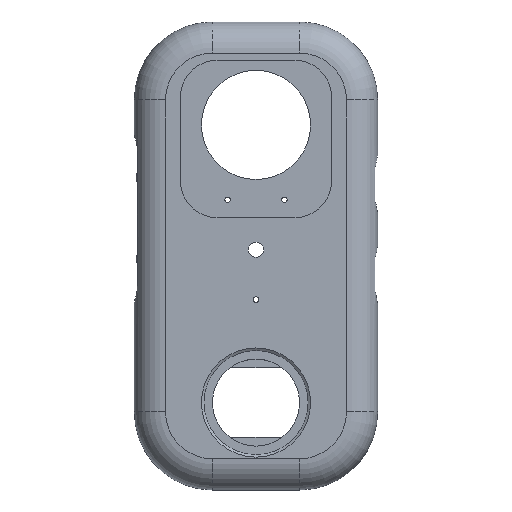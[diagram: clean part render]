
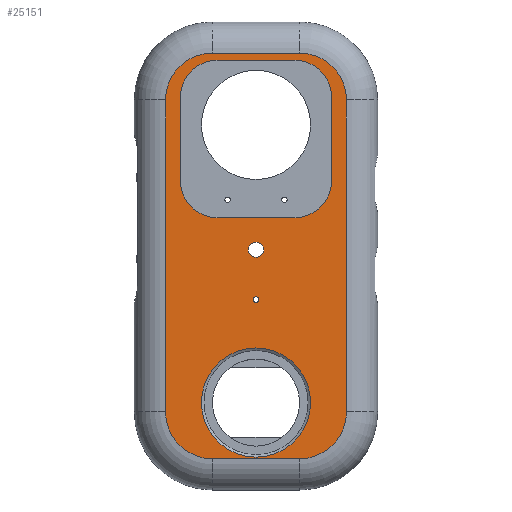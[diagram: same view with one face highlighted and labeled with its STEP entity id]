
A CAD part, top view. The second image highlights one B-rep face of the part: STEP entity #25151.
In plain terms, the highlighted planar face has unit normal (0, 0, 1).
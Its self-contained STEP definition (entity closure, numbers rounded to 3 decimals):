
#733=PLANE('',#27304);
#1183=FACE_BOUND('',#3684,.T.);
#1184=FACE_BOUND('',#3685,.T.);
#1185=FACE_BOUND('',#3686,.T.);
#1186=FACE_BOUND('',#3687,.T.);
#2273=FACE_OUTER_BOUND('',#3683,.T.);
#3683=EDGE_LOOP('',(#21497,#21498,#21499,#21500,#21501,#21502,#21503,#21504));
#3684=EDGE_LOOP('',(#21505));
#3685=EDGE_LOOP('',(#21506,#21507,#21508,#21509,#21510,#21511,#21512,#21513));
#3686=EDGE_LOOP('',(#21514));
#3687=EDGE_LOOP('',(#21515));
#4712=CIRCLE('',#26588,11.7);
#4713=CIRCLE('',#26591,11.7);
#4714=CIRCLE('',#26594,11.7);
#4715=CIRCLE('',#26597,11.7);
#4957=CIRCLE('',#27305,15.);
#4958=CIRCLE('',#27306,15.);
#4959=CIRCLE('',#27307,15.);
#4960=CIRCLE('',#27308,15.);
#4961=CIRCLE('',#27309,2.45);
#4962=CIRCLE('',#27310,17.5);
#4963=CIRCLE('',#27311,0.9);
#6089=LINE('',#47211,#8553);
#6093=LINE('',#47220,#8557);
#6096=LINE('',#47228,#8560);
#6099=LINE('',#47236,#8563);
#7011=LINE('',#51050,#9475);
#7012=LINE('',#51054,#9476);
#7013=LINE('',#51058,#9477);
#7014=LINE('',#51062,#9478);
#8553=VECTOR('',#30790,1.);
#8557=VECTOR('',#30800,1.);
#8560=VECTOR('',#30809,1.);
#8563=VECTOR('',#30818,1.);
#9475=VECTOR('',#33148,1.);
#9476=VECTOR('',#33151,1.);
#9477=VECTOR('',#33154,1.);
#9478=VECTOR('',#33157,1.);
#11377=VERTEX_POINT('',#47209);
#11378=VERTEX_POINT('',#47210);
#11379=VERTEX_POINT('',#47215);
#11380=VERTEX_POINT('',#47219);
#11381=VERTEX_POINT('',#47223);
#11382=VERTEX_POINT('',#47227);
#11383=VERTEX_POINT('',#47231);
#11384=VERTEX_POINT('',#47235);
#12161=VERTEX_POINT('',#51048);
#12162=VERTEX_POINT('',#51049);
#12163=VERTEX_POINT('',#51051);
#12164=VERTEX_POINT('',#51053);
#12165=VERTEX_POINT('',#51055);
#12166=VERTEX_POINT('',#51057);
#12167=VERTEX_POINT('',#51059);
#12168=VERTEX_POINT('',#51061);
#12169=VERTEX_POINT('',#51064);
#12170=VERTEX_POINT('',#51066);
#12171=VERTEX_POINT('',#51068);
#14271=EDGE_CURVE('',#11377,#11378,#6089,.T.);
#14274=EDGE_CURVE('',#11379,#11377,#4712,.T.);
#14276=EDGE_CURVE('',#11380,#11379,#6093,.T.);
#14278=EDGE_CURVE('',#11381,#11380,#4713,.T.);
#14280=EDGE_CURVE('',#11382,#11381,#6096,.T.);
#14282=EDGE_CURVE('',#11383,#11382,#4714,.T.);
#14284=EDGE_CURVE('',#11384,#11383,#6099,.T.);
#14286=EDGE_CURVE('',#11378,#11384,#4715,.T.);
#15515=EDGE_CURVE('',#12161,#12162,#7011,.T.);
#15516=EDGE_CURVE('',#12163,#12161,#4957,.T.);
#15517=EDGE_CURVE('',#12164,#12163,#7012,.T.);
#15518=EDGE_CURVE('',#12165,#12164,#4958,.T.);
#15519=EDGE_CURVE('',#12166,#12165,#7013,.T.);
#15520=EDGE_CURVE('',#12167,#12166,#4959,.T.);
#15521=EDGE_CURVE('',#12168,#12167,#7014,.T.);
#15522=EDGE_CURVE('',#12162,#12168,#4960,.T.);
#15523=EDGE_CURVE('',#12169,#12169,#4961,.T.);
#15524=EDGE_CURVE('',#12170,#12170,#4962,.T.);
#15525=EDGE_CURVE('',#12171,#12171,#4963,.T.);
#21497=ORIENTED_EDGE('',*,*,#15515,.F.);
#21498=ORIENTED_EDGE('',*,*,#15516,.F.);
#21499=ORIENTED_EDGE('',*,*,#15517,.F.);
#21500=ORIENTED_EDGE('',*,*,#15518,.F.);
#21501=ORIENTED_EDGE('',*,*,#15519,.F.);
#21502=ORIENTED_EDGE('',*,*,#15520,.F.);
#21503=ORIENTED_EDGE('',*,*,#15521,.F.);
#21504=ORIENTED_EDGE('',*,*,#15522,.F.);
#21505=ORIENTED_EDGE('',*,*,#15523,.T.);
#21506=ORIENTED_EDGE('',*,*,#14276,.T.);
#21507=ORIENTED_EDGE('',*,*,#14274,.T.);
#21508=ORIENTED_EDGE('',*,*,#14271,.T.);
#21509=ORIENTED_EDGE('',*,*,#14286,.T.);
#21510=ORIENTED_EDGE('',*,*,#14284,.T.);
#21511=ORIENTED_EDGE('',*,*,#14282,.T.);
#21512=ORIENTED_EDGE('',*,*,#14280,.T.);
#21513=ORIENTED_EDGE('',*,*,#14278,.T.);
#21514=ORIENTED_EDGE('',*,*,#15524,.T.);
#21515=ORIENTED_EDGE('',*,*,#15525,.T.);
#25151=ADVANCED_FACE('',(#2273,#1183,#1184,#1185,#1186),#733,.T.);
#26588=AXIS2_PLACEMENT_3D('',#47216,#30795,#30796);
#26591=AXIS2_PLACEMENT_3D('',#47224,#30804,#30805);
#26594=AXIS2_PLACEMENT_3D('',#47232,#30813,#30814);
#26597=AXIS2_PLACEMENT_3D('',#47239,#30822,#30823);
#27304=AXIS2_PLACEMENT_3D('',#51047,#33146,#33147);
#27305=AXIS2_PLACEMENT_3D('',#51052,#33149,#33150);
#27306=AXIS2_PLACEMENT_3D('',#51056,#33152,#33153);
#27307=AXIS2_PLACEMENT_3D('',#51060,#33155,#33156);
#27308=AXIS2_PLACEMENT_3D('',#51063,#33158,#33159);
#27309=AXIS2_PLACEMENT_3D('',#51065,#33160,#33161);
#27310=AXIS2_PLACEMENT_3D('',#51067,#33162,#33163);
#27311=AXIS2_PLACEMENT_3D('',#51069,#33164,#33165);
#30790=DIRECTION('',(0.,-1.,0.));
#30795=DIRECTION('center_axis',(0.,0.,-1.));
#30796=DIRECTION('ref_axis',(1.,0.,0.));
#30800=DIRECTION('',(1.,0.,0.));
#30804=DIRECTION('center_axis',(0.,0.,-1.));
#30805=DIRECTION('ref_axis',(1.,0.,0.));
#30809=DIRECTION('',(0.,1.,0.));
#30813=DIRECTION('center_axis',(0.,0.,-1.));
#30814=DIRECTION('ref_axis',(1.,0.,0.));
#30818=DIRECTION('',(-1.,0.,0.));
#30822=DIRECTION('center_axis',(0.,0.,-1.));
#30823=DIRECTION('ref_axis',(1.,0.,0.));
#33146=DIRECTION('center_axis',(0.,0.,1.));
#33147=DIRECTION('ref_axis',(1.,0.,0.));
#33148=DIRECTION('',(0.,1.,0.));
#33149=DIRECTION('center_axis',(0.,0.,-1.));
#33150=DIRECTION('ref_axis',(-0.707,-0.707,0.));
#33151=DIRECTION('',(-1.,0.,0.));
#33152=DIRECTION('center_axis',(0.,0.,-1.));
#33153=DIRECTION('ref_axis',(0.707,-0.707,0.));
#33154=DIRECTION('',(0.,-1.,0.));
#33155=DIRECTION('center_axis',(0.,0.,-1.));
#33156=DIRECTION('ref_axis',(0.707,0.707,0.));
#33157=DIRECTION('',(1.,0.,0.));
#33158=DIRECTION('center_axis',(0.,0.,-1.));
#33159=DIRECTION('ref_axis',(-0.707,0.707,0.));
#33160=DIRECTION('center_axis',(0.,0.,-1.));
#33161=DIRECTION('ref_axis',(1.,0.,0.));
#33162=DIRECTION('center_axis',(0.,0.,-1.));
#33163=DIRECTION('ref_axis',(1.,0.,0.));
#33164=DIRECTION('center_axis',(0.,0.,-1.));
#33165=DIRECTION('ref_axis',(-1.,0.,0.));
#47209=CARTESIAN_POINT('',(24.2,51.,0.));
#47210=CARTESIAN_POINT('',(24.2,24.,0.));
#47211=CARTESIAN_POINT('',(24.2,18.75,0.));
#47215=CARTESIAN_POINT('',(12.5,62.7,0.));
#47216=CARTESIAN_POINT('Origin',(12.5,51.,0.));
#47219=CARTESIAN_POINT('',(-12.5,62.7,0.));
#47220=CARTESIAN_POINT('',(0.,62.7,0.));
#47223=CARTESIAN_POINT('',(-24.2,51.,0.));
#47224=CARTESIAN_POINT('Origin',(-12.5,51.,0.));
#47227=CARTESIAN_POINT('',(-24.2,24.,0.));
#47228=CARTESIAN_POINT('',(-24.2,18.75,0.));
#47231=CARTESIAN_POINT('',(-12.5,12.3,0.));
#47232=CARTESIAN_POINT('Origin',(-12.5,24.,0.));
#47235=CARTESIAN_POINT('',(12.5,12.3,0.));
#47236=CARTESIAN_POINT('',(0.,12.3,0.));
#47239=CARTESIAN_POINT('Origin',(12.5,24.,0.));
#51047=CARTESIAN_POINT('Origin',(0.,0.,0.));
#51048=CARTESIAN_POINT('',(-29.,-50.,0.));
#51049=CARTESIAN_POINT('',(-29.,50.,0.));
#51050=CARTESIAN_POINT('',(-29.,0.,0.));
#51051=CARTESIAN_POINT('',(-14.,-65.,0.));
#51052=CARTESIAN_POINT('Origin',(-14.,-50.,0.));
#51053=CARTESIAN_POINT('',(14.,-65.,0.));
#51054=CARTESIAN_POINT('',(0.,-65.,0.));
#51055=CARTESIAN_POINT('',(29.,-50.,0.));
#51056=CARTESIAN_POINT('Origin',(14.,-50.,0.));
#51057=CARTESIAN_POINT('',(29.,50.,0.));
#51058=CARTESIAN_POINT('',(29.,0.,0.));
#51059=CARTESIAN_POINT('',(14.,65.,0.));
#51060=CARTESIAN_POINT('Origin',(14.,50.,0.));
#51061=CARTESIAN_POINT('',(-14.,65.,0.));
#51062=CARTESIAN_POINT('',(0.,65.,0.));
#51063=CARTESIAN_POINT('Origin',(-14.,50.,0.));
#51064=CARTESIAN_POINT('',(-2.45,2.,0.));
#51065=CARTESIAN_POINT('Origin',(0.,2.,0.));
#51066=CARTESIAN_POINT('',(-17.5,-47.,0.));
#51067=CARTESIAN_POINT('Origin',(0.,-47.,0.));
#51068=CARTESIAN_POINT('',(0.9,-14.,0.));
#51069=CARTESIAN_POINT('Origin',(0.,-14.,0.));
